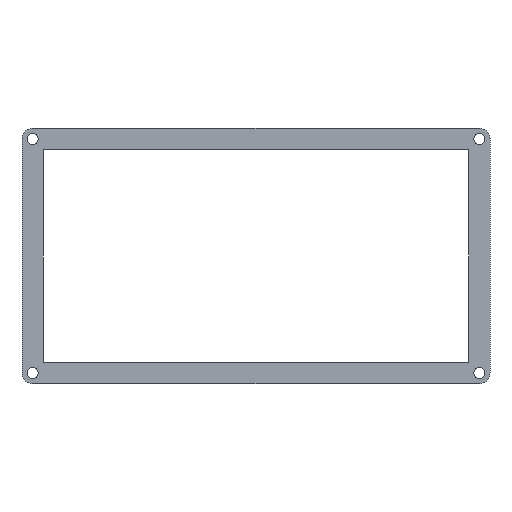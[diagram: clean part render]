
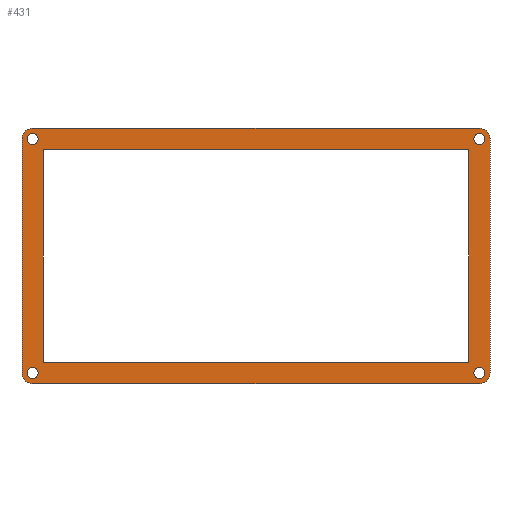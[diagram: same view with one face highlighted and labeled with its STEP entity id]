
A CAD part, front view. The second image highlights one B-rep face of the part: STEP entity #431.
In plain terms, the highlighted planar face has unit normal (0, -1, 0).
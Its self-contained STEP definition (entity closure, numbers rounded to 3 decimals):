
#32=LINE('',#674,#72);
#36=LINE('',#683,#76);
#38=LINE('',#692,#78);
#39=LINE('',#695,#79);
#40=LINE('',#698,#80);
#41=LINE('',#700,#81);
#42=LINE('',#702,#82);
#43=LINE('',#703,#83);
#72=VECTOR('',#551,10.);
#76=VECTOR('',#561,10.);
#78=VECTOR('',#571,10.);
#79=VECTOR('',#574,10.);
#80=VECTOR('',#575,10.);
#81=VECTOR('',#576,10.);
#82=VECTOR('',#577,10.);
#83=VECTOR('',#578,10.);
#102=PLANE('',#476);
#119=FACE_BOUND('',#171,.T.);
#120=FACE_BOUND('',#172,.T.);
#121=FACE_BOUND('',#173,.T.);
#122=FACE_BOUND('',#174,.T.);
#123=FACE_BOUND('',#175,.T.);
#138=FACE_OUTER_BOUND('',#170,.T.);
#170=EDGE_LOOP('',(#354,#355,#356,#357,#358,#359,#360,#361));
#171=EDGE_LOOP('',(#362));
#172=EDGE_LOOP('',(#363));
#173=EDGE_LOOP('',(#364));
#174=EDGE_LOOP('',(#365));
#175=EDGE_LOOP('',(#366,#367,#368,#369));
#187=CIRCLE('',#451,5.25);
#189=CIRCLE('',#454,5.25);
#191=CIRCLE('',#457,5.25);
#193=CIRCLE('',#460,5.25);
#198=CIRCLE('',#472,10.);
#199=CIRCLE('',#475,10.);
#200=CIRCLE('',#477,10.);
#201=CIRCLE('',#478,10.);
#203=VERTEX_POINT('',#612);
#205=VERTEX_POINT('',#617);
#207=VERTEX_POINT('',#622);
#209=VERTEX_POINT('',#627);
#226=VERTEX_POINT('',#671);
#227=VERTEX_POINT('',#673);
#228=VERTEX_POINT('',#677);
#229=VERTEX_POINT('',#681);
#230=VERTEX_POINT('',#685);
#231=VERTEX_POINT('',#689);
#232=VERTEX_POINT('',#691);
#233=VERTEX_POINT('',#693);
#234=VERTEX_POINT('',#696);
#235=VERTEX_POINT('',#697);
#236=VERTEX_POINT('',#699);
#237=VERTEX_POINT('',#701);
#243=EDGE_CURVE('',#203,#203,#187,.T.);
#245=EDGE_CURVE('',#205,#205,#189,.T.);
#247=EDGE_CURVE('',#207,#207,#191,.T.);
#249=EDGE_CURVE('',#209,#209,#193,.T.);
#271=EDGE_CURVE('',#227,#226,#32,.T.);
#274=EDGE_CURVE('',#228,#226,#198,.T.);
#276=EDGE_CURVE('',#228,#229,#36,.T.);
#277=EDGE_CURVE('',#227,#230,#199,.T.);
#279=EDGE_CURVE('',#231,#229,#200,.T.);
#280=EDGE_CURVE('',#231,#232,#38,.T.);
#281=EDGE_CURVE('',#233,#232,#201,.T.);
#282=EDGE_CURVE('',#233,#230,#39,.T.);
#283=EDGE_CURVE('',#234,#235,#40,.T.);
#284=EDGE_CURVE('',#235,#236,#41,.T.);
#285=EDGE_CURVE('',#236,#237,#42,.T.);
#286=EDGE_CURVE('',#237,#234,#43,.T.);
#354=ORIENTED_EDGE('',*,*,#277,.F.);
#355=ORIENTED_EDGE('',*,*,#271,.T.);
#356=ORIENTED_EDGE('',*,*,#274,.F.);
#357=ORIENTED_EDGE('',*,*,#276,.T.);
#358=ORIENTED_EDGE('',*,*,#279,.F.);
#359=ORIENTED_EDGE('',*,*,#280,.T.);
#360=ORIENTED_EDGE('',*,*,#281,.F.);
#361=ORIENTED_EDGE('',*,*,#282,.T.);
#362=ORIENTED_EDGE('',*,*,#243,.T.);
#363=ORIENTED_EDGE('',*,*,#245,.T.);
#364=ORIENTED_EDGE('',*,*,#247,.T.);
#365=ORIENTED_EDGE('',*,*,#249,.T.);
#366=ORIENTED_EDGE('',*,*,#283,.T.);
#367=ORIENTED_EDGE('',*,*,#284,.T.);
#368=ORIENTED_EDGE('',*,*,#285,.T.);
#369=ORIENTED_EDGE('',*,*,#286,.T.);
#431=ADVANCED_FACE('',(#138,#119,#120,#121,#122,#123),#102,.T.);
#451=AXIS2_PLACEMENT_3D('',#613,#494,#495);
#454=AXIS2_PLACEMENT_3D('',#618,#500,#501);
#457=AXIS2_PLACEMENT_3D('',#623,#506,#507);
#460=AXIS2_PLACEMENT_3D('',#628,#512,#513);
#472=AXIS2_PLACEMENT_3D('',#679,#556,#557);
#475=AXIS2_PLACEMENT_3D('',#686,#564,#565);
#476=AXIS2_PLACEMENT_3D('',#688,#567,#568);
#477=AXIS2_PLACEMENT_3D('',#690,#569,#570);
#478=AXIS2_PLACEMENT_3D('',#694,#572,#573);
#494=DIRECTION('center_axis',(0.,1.,0.));
#495=DIRECTION('ref_axis',(1.,0.,0.));
#500=DIRECTION('center_axis',(0.,1.,0.));
#501=DIRECTION('ref_axis',(1.,0.,0.));
#506=DIRECTION('center_axis',(0.,1.,0.));
#507=DIRECTION('ref_axis',(1.,0.,0.));
#512=DIRECTION('center_axis',(0.,1.,0.));
#513=DIRECTION('ref_axis',(1.,0.,0.));
#551=DIRECTION('',(0.,0.,-1.));
#556=DIRECTION('center_axis',(0.,1.,0.));
#557=DIRECTION('ref_axis',(-0.707,0.,-0.707));
#561=DIRECTION('',(1.,0.,0.));
#564=DIRECTION('center_axis',(0.,1.,0.));
#565=DIRECTION('ref_axis',(-0.707,0.,0.707));
#567=DIRECTION('center_axis',(0.,-1.,0.));
#568=DIRECTION('ref_axis',(0.,0.,-1.));
#569=DIRECTION('center_axis',(0.,1.,0.));
#570=DIRECTION('ref_axis',(0.707,0.,-0.707));
#571=DIRECTION('',(0.,0.,1.));
#572=DIRECTION('center_axis',(0.,1.,0.));
#573=DIRECTION('ref_axis',(0.707,0.,0.707));
#574=DIRECTION('',(-1.,0.,0.));
#575=DIRECTION('',(0.,0.,-1.));
#576=DIRECTION('',(-1.,0.,0.));
#577=DIRECTION('',(0.,0.,1.));
#578=DIRECTION('',(1.,0.,0.));
#612=CARTESIAN_POINT('',(215.25,-11.,-110.));
#613=CARTESIAN_POINT('Origin',(210.,-11.,-110.));
#617=CARTESIAN_POINT('',(-204.75,-11.,110.));
#618=CARTESIAN_POINT('Origin',(-210.,-11.,110.));
#622=CARTESIAN_POINT('',(-204.75,-11.,-110.));
#623=CARTESIAN_POINT('Origin',(-210.,-11.,-110.));
#627=CARTESIAN_POINT('',(215.25,-11.,110.));
#628=CARTESIAN_POINT('Origin',(210.,-11.,110.));
#671=CARTESIAN_POINT('',(-220.,-11.,-110.));
#673=CARTESIAN_POINT('',(-220.,-11.,110.));
#674=CARTESIAN_POINT('',(-220.,-11.,120.));
#677=CARTESIAN_POINT('',(-210.,-11.,-120.));
#679=CARTESIAN_POINT('Origin',(-210.,-11.,-110.));
#681=CARTESIAN_POINT('',(210.,-11.,-120.));
#683=CARTESIAN_POINT('',(-220.,-11.,-120.));
#685=CARTESIAN_POINT('',(-210.,-11.,120.));
#686=CARTESIAN_POINT('Origin',(-210.,-11.,110.));
#688=CARTESIAN_POINT('Origin',(0.,-11.,0.));
#689=CARTESIAN_POINT('',(220.,-11.,-110.));
#690=CARTESIAN_POINT('Origin',(210.,-11.,-110.));
#691=CARTESIAN_POINT('',(220.,-11.,110.));
#692=CARTESIAN_POINT('',(220.,-11.,-120.));
#693=CARTESIAN_POINT('',(210.,-11.,120.));
#694=CARTESIAN_POINT('Origin',(210.,-11.,110.));
#695=CARTESIAN_POINT('',(220.,-11.,120.));
#696=CARTESIAN_POINT('',(200.,-11.,100.));
#697=CARTESIAN_POINT('',(200.,-11.,-100.));
#698=CARTESIAN_POINT('',(200.,-11.,50.));
#699=CARTESIAN_POINT('',(-200.,-11.,-100.));
#700=CARTESIAN_POINT('',(100.,-11.,-100.));
#701=CARTESIAN_POINT('',(-200.,-11.,100.));
#702=CARTESIAN_POINT('',(-200.,-11.,-50.));
#703=CARTESIAN_POINT('',(-100.,-11.,100.));
